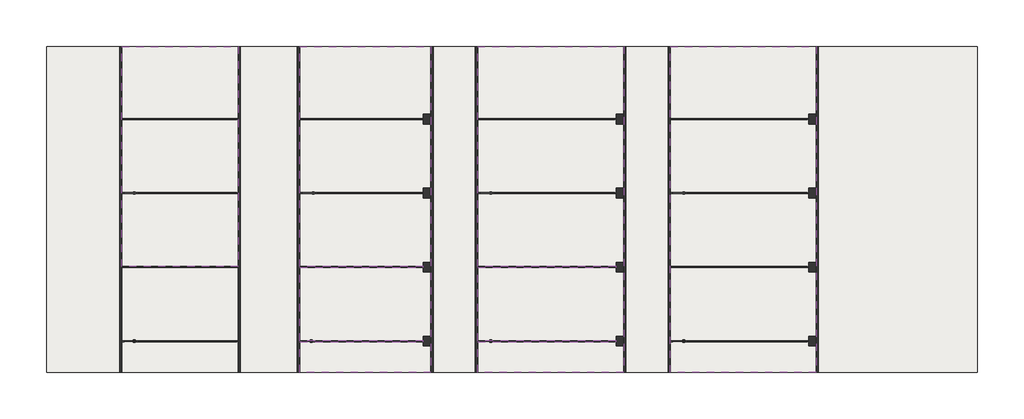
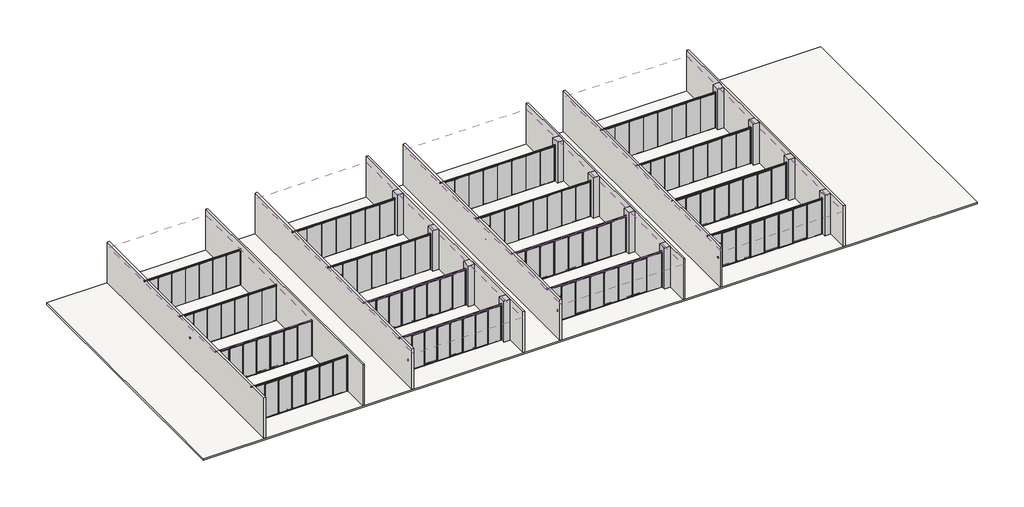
# One storey: 16 proxies, 12 columns, 8 walls, 4 coverings, 1 slab.
"""IFC4 building model written with IfcOpenShell, lengths in millimetres."""

from ifc_helpers import new_model, si_unit, frame, origin, place, context, project, spatial, polyline, outline, extrude, faceted_brep, transform, mapped, element, save
from components import type_a_e4121470, type_a_331d0887, type_a_3dc682f6, type_a_b0c5d881, type_a_b381bf6a, type_a_feeafe0a, type_b_6e2a2145, type_b_5b592769, type_b_17a27512, type_b_3c586b7c, type_b_248656a5, type_b_39922017, type_c_bcd6d19d, type_c_f462f6c3, type_c_2b327253, type_c_fbdfbec6, type_c_87207ea0, type_c_7cec8b19

model = new_model("IFC4")

# Units and contexts
model_context = context("Model", 3, world=origin())
ifc_project = project(units=[si_unit("LENGTHUNIT", "METRE", prefix="MILLI")], contexts=[model_context])

# Site, building, storey
site = spatial("IfcSite", under=ifc_project)
building = spatial("IfcBuilding", under=site)
storey = spatial("IfcBuildingStorey", under=building, Name="レベル 1", Elevation=500.0)

# Proxies
placement = place(None, origin())
type_a_shape = type_a_e4121470(model_context)
type_a_2_shape = type_a_331d0887(model_context)
element("IfcBuildingElementProxy", 1, Name="Planner Wall_ダブルガラス(Door) : Type_A", ObjectType="Planner Wall_ダブルガラス(Door) : Type_A", at=placement, inside=storey, context=model_context, shape_type="MappedRepresentation", body=[
    mapped(type_a_shape, transform((-14987.3449005, -7430.5617784, 500.0), x_axis=(1.0, 0.0, 0.0), y_axis=(0.0, 1.0, 0.0), z_axis=(0.0, 0.0, 1.0))),
    mapped(type_a_2_shape, transform((-14987.3449005, -7430.5617784, 500.0), x_axis=(1.0, 0.0, 0.0), y_axis=(0.0, 1.0, 0.0), z_axis=(0.0, 0.0, 1.0))),
])
type_a_3_shape = type_a_3dc682f6(model_context)
element("IfcBuildingElementProxy", 2, Name="Planner Wall_ダブルガラス(NO Door) : Type_A", ObjectType="Planner Wall_ダブルガラス(NO Door) : Type_A", at=placement, inside=storey, context=model_context, shape_type="MappedRepresentation", body=[
    mapped(type_a_3_shape, transform((-13242.3449005, -2430.5617784, 500.0), x_axis=(1.0, 0.0, 0.0), y_axis=(0.0, 1.0, 0.0), z_axis=(0.0, 0.0, 1.0))),
])
type_a_4_shape = type_a_b0c5d881(model_context)
type_a_5_shape = type_a_b381bf6a(model_context)
element("IfcBuildingElementProxy", 3, Name="Planner Wall フラッシュパネル(Door) : Type_A", ObjectType="Planner Wall フラッシュパネル(Door) : Type_A", at=placement, inside=storey, context=model_context, shape_type="MappedRepresentation", body=[
    mapped(type_a_4_shape, transform((-14987.3449005, 2569.4382216, 500.0), x_axis=(1.0, 0.0, 0.0), y_axis=(0.0, 1.0, 0.0), z_axis=(0.0, 0.0, 1.0))),
    mapped(type_a_5_shape, transform((-14987.3449005, 2569.4382216, 500.0), x_axis=(1.0, 0.0, 0.0), y_axis=(0.0, 1.0, 0.0), z_axis=(0.0, 0.0, 1.0))),
])
type_a_6_shape = type_a_feeafe0a(model_context)
element("IfcBuildingElementProxy", 4, Name="Planner Wall フラッシュパネル(NO Door) : Type_A", ObjectType="Planner Wall フラッシュパネル(NO Door) : Type_A", at=placement, inside=storey, context=model_context, shape_type="MappedRepresentation", body=[
    mapped(type_a_6_shape, transform((-13242.3449005, 7569.4382216, 500.0), x_axis=(1.0, 0.0, 0.0), y_axis=(0.0, 1.0, 0.0), z_axis=(0.0, 0.0, 1.0))),
])
type_b_shape = type_b_6e2a2145(model_context)
element("IfcBuildingElementProxy", 5, Name="Planner Wall_ダブルガラス(NO Door) : Type_B", ObjectType="Planner Wall_ダブルガラス(NO Door) : Type_B", at=placement, inside=storey, context=model_context, shape_type="MappedRepresentation", body=[
    mapped(type_b_shape, transform((-742.3449005, -2430.5617784, 500.0), x_axis=(1.0, 0.0, 0.0), y_axis=(0.0, 1.0, 0.0), z_axis=(0.0, 0.0, 1.0))),
])
type_b_2_shape = type_b_5b592769(model_context)
type_b_3_shape = type_b_17a27512(model_context)
element("IfcBuildingElementProxy", 6, Name="Planner Wall_ダブルガラス(Door) : Type_B", ObjectType="Planner Wall_ダブルガラス(Door) : Type_B", at=placement, inside=storey, context=model_context, shape_type="MappedRepresentation", body=[
    mapped(type_b_2_shape, transform((-2987.3449005, -7430.5617784, 500.0), x_axis=(1.0, 0.0, 0.0), y_axis=(0.0, 1.0, 0.0), z_axis=(0.0, 0.0, 1.0))),
    mapped(type_b_3_shape, transform((-2987.3449005, -7430.5617784, 500.0), x_axis=(1.0, 0.0, 0.0), y_axis=(0.0, 1.0, 0.0), z_axis=(0.0, 0.0, 1.0))),
])
type_b_4_shape = type_b_3c586b7c(model_context)
type_b_5_shape = type_b_248656a5(model_context)
element("IfcBuildingElementProxy", 7, Name="Planner Wall フラッシュパネル(Door) : Type_B", ObjectType="Planner Wall フラッシュパネル(Door) : Type_B", at=placement, inside=storey, context=model_context, shape_type="MappedRepresentation", body=[
    mapped(type_b_4_shape, transform((-2987.3449005, 2569.4382216, 500.0), x_axis=(1.0, 0.0, 0.0), y_axis=(0.0, 1.0, 0.0), z_axis=(0.0, 0.0, 1.0))),
    mapped(type_b_5_shape, transform((-2987.3449005, 2569.4382216, 500.0), x_axis=(1.0, 0.0, 0.0), y_axis=(0.0, 1.0, 0.0), z_axis=(0.0, 0.0, 1.0))),
])
type_b_6_shape = type_b_39922017(model_context)
element("IfcBuildingElementProxy", 8, Name="Planner Wall フラッシュパネル(NO Door) : Type_B", ObjectType="Planner Wall フラッシュパネル(NO Door) : Type_B", at=placement, inside=storey, context=model_context, shape_type="MappedRepresentation", body=[
    mapped(type_b_6_shape, transform((-742.3449005, 7569.4382216, 500.0), x_axis=(1.0, 0.0, 0.0), y_axis=(0.0, 1.0, 0.0), z_axis=(0.0, 0.0, 1.0))),
])
type_c_shape = type_c_bcd6d19d(model_context)
element("IfcBuildingElementProxy", 9, Name="Planner Wall_ダブルガラス(NO Door) : Type_C", ObjectType="Planner Wall_ダブルガラス(NO Door) : Type_C", at=placement, inside=storey, context=model_context, shape_type="MappedRepresentation", body=[
    mapped(type_c_shape, transform((12257.6550995, -2430.5617784, 500.0), x_axis=(1.0, 0.0, 0.0), y_axis=(0.0, 1.0, 0.0), z_axis=(0.0, 0.0, 1.0))),
])
type_c_2_shape = type_c_f462f6c3(model_context)
type_c_3_shape = type_c_2b327253(model_context)
element("IfcBuildingElementProxy", 10, Name="Planner Wall_ダブルガラス(Door) : Type_C", ObjectType="Planner Wall_ダブルガラス(Door) : Type_C", at=placement, inside=storey, context=model_context, shape_type="MappedRepresentation", body=[
    mapped(type_c_2_shape, transform((9012.6550995, -7430.5617784, 500.0), x_axis=(1.0, 0.0, 0.0), y_axis=(0.0, 1.0, 0.0), z_axis=(0.0, 0.0, 1.0))),
    mapped(type_c_3_shape, transform((9012.6550995, -7430.5617784, 500.0), x_axis=(1.0, 0.0, 0.0), y_axis=(0.0, 1.0, 0.0), z_axis=(0.0, 0.0, 1.0))),
])
type_c_4_shape = type_c_fbdfbec6(model_context)
type_c_5_shape = type_c_87207ea0(model_context)
element("IfcBuildingElementProxy", 11, Name="Planner Wall フラッシュパネル(Door) : Type_C", ObjectType="Planner Wall フラッシュパネル(Door) : Type_C", at=placement, inside=storey, context=model_context, shape_type="MappedRepresentation", body=[
    mapped(type_c_4_shape, transform((9012.6550995, 2569.4382216, 500.0), x_axis=(1.0, 0.0, 0.0), y_axis=(0.0, 1.0, 0.0), z_axis=(0.0, 0.0, 1.0))),
    mapped(type_c_5_shape, transform((9012.6550995, 2569.4382216, 500.0), x_axis=(1.0, 0.0, 0.0), y_axis=(0.0, 1.0, 0.0), z_axis=(0.0, 0.0, 1.0))),
])
type_c_6_shape = type_c_7cec8b19(model_context)
element("IfcBuildingElementProxy", 12, Name="Planner Wall フラッシュパネル(NO Door) : Type_C", ObjectType="Planner Wall フラッシュパネル(NO Door) : Type_C", at=placement, inside=storey, context=model_context, shape_type="MappedRepresentation", body=[
    mapped(type_c_6_shape, transform((12257.6550995, 7569.4382216, 500.0), x_axis=(1.0, 0.0, 0.0), y_axis=(0.0, 1.0, 0.0), z_axis=(0.0, 0.0, 1.0))),
])
element("IfcBuildingElementProxy", 13, Name="Planner Wall_ダブルガラス(NO Door) : Type_D", ObjectType="Planner Wall_ダブルガラス(NO Door) : Type_D", at=placement, inside=storey, context=model_context, shape_type="MappedRepresentation", body=[
    mapped(type_c_shape, transform((25257.6550995, -2430.5617784, 500.0), x_axis=(1.0, 0.0, 0.0), y_axis=(0.0, 1.0, 0.0), z_axis=(0.0, 0.0, 1.0))),
])
element("IfcBuildingElementProxy", 14, Name="Planner Wall_ダブルガラス(Door) : Type_D", ObjectType="Planner Wall_ダブルガラス(Door) : Type_D", at=placement, inside=storey, context=model_context, shape_type="MappedRepresentation", body=[
    mapped(type_c_2_shape, transform((22012.6550995, -7430.5617784, 500.0), x_axis=(1.0, 0.0, 0.0), y_axis=(0.0, 1.0, 0.0), z_axis=(0.0, 0.0, 1.0))),
    mapped(type_c_3_shape, transform((22012.6550995, -7430.5617784, 500.0), x_axis=(1.0, 0.0, 0.0), y_axis=(0.0, 1.0, 0.0), z_axis=(0.0, 0.0, 1.0))),
])
element("IfcBuildingElementProxy", 15, Name="Planner Wall フラッシュパネル(Door) : Type_D", ObjectType="Planner Wall フラッシュパネル(Door) : Type_D", at=placement, inside=storey, context=model_context, shape_type="MappedRepresentation", body=[
    mapped(type_c_4_shape, transform((22012.6550995, 2569.4382216, 500.0), x_axis=(1.0, 0.0, 0.0), y_axis=(0.0, 1.0, 0.0), z_axis=(0.0, 0.0, 1.0))),
    mapped(type_c_5_shape, transform((22012.6550995, 2569.4382216, 500.0), x_axis=(1.0, 0.0, 0.0), y_axis=(0.0, 1.0, 0.0), z_axis=(0.0, 0.0, 1.0))),
])
element("IfcBuildingElementProxy", 16, Name="Planner Wall フラッシュパネル(NO Door) : Type_D", ObjectType="Planner Wall フラッシュパネル(NO Door) : Type_D", at=placement, inside=storey, context=model_context, shape_type="MappedRepresentation", body=[
    mapped(type_c_6_shape, transform((25257.6550995, 7569.4382216, 500.0), x_axis=(1.0, 0.0, 0.0), y_axis=(0.0, 1.0, 0.0), z_axis=(0.0, 0.0, 1.0))),
])

# Columns
element("IfcColumn", 17, ObjectType="角柱 : 650 x 650mm", at=placement, inside=storey, context=model_context, shape_type="SweptSolid", body=[
    extrude(outline(polyline([(5362.6550995, -2755.5617784), (5362.6550995, -2105.5617784), (5862.6550995, -2105.5617784), (5862.6550995, -2755.5617784), (5362.6550995, -2755.5617784)])), frame((0.0, 0.0, 500.0), z_axis=(0.0, 0.0, 1.0), x_axis=(1.0, 0.0, 0.0)), (0.0, 0.0, 1.0), 3500.0),
])
element("IfcColumn", 18, ObjectType="角柱 : 650 x 650mm", at=placement, inside=storey, context=model_context, shape_type="SweptSolid", body=[
    extrude(outline(polyline([(5362.6550995, -7755.5617784), (5362.6550995, -7105.5617784), (5862.6550995, -7105.5617784), (5862.6550995, -7755.5617784), (5362.6550995, -7755.5617784)])), frame((0.0, 0.0, 500.0), z_axis=(0.0, 0.0, 1.0), x_axis=(1.0, 0.0, 0.0)), (0.0, 0.0, 1.0), 3500.0),
])
element("IfcColumn", 19, ObjectType="角柱 : 650 x 650mm", at=placement, inside=storey, context=model_context, shape_type="SweptSolid", body=[
    extrude(outline(polyline([(18362.6550995, -2755.5617784), (18362.6550995, -2105.5617784), (18862.6550995, -2105.5617784), (18862.6550995, -2755.5617784), (18362.6550995, -2755.5617784)])), frame((0.0, 0.0, 500.0), z_axis=(0.0, 0.0, 1.0), x_axis=(1.0, 0.0, 0.0)), (0.0, 0.0, 1.0), 3500.0),
])
element("IfcColumn", 20, ObjectType="角柱 : 650 x 650mm", at=placement, inside=storey, context=model_context, shape_type="SweptSolid", body=[
    extrude(outline(polyline([(18362.6550995, -7755.5617784), (18362.6550995, -7105.5617784), (18862.6550995, -7105.5617784), (18862.6550995, -7755.5617784), (18362.6550995, -7755.5617784)])), frame((0.0, 0.0, 500.0), z_axis=(0.0, 0.0, 1.0), x_axis=(1.0, 0.0, 0.0)), (0.0, 0.0, 1.0), 3500.0),
])
element("IfcColumn", 21, ObjectType="角柱 : 650 x 650mm", at=placement, inside=storey, context=model_context, shape_type="SweptSolid", body=[
    extrude(outline(polyline([(31362.6550995, -2755.5617784), (31362.6550995, -2105.5617784), (31862.6550995, -2105.5617784), (31862.6550995, -2755.5617784), (31362.6550995, -2755.5617784)])), frame((0.0, 0.0, 500.0), z_axis=(0.0, 0.0, 1.0), x_axis=(1.0, 0.0, 0.0)), (0.0, 0.0, 1.0), 3500.0),
])
element("IfcColumn", 22, ObjectType="角柱 : 650 x 650mm", at=placement, inside=storey, context=model_context, shape_type="SweptSolid", body=[
    extrude(outline(polyline([(31362.6550995, -7755.5617784), (31362.6550995, -7105.5617784), (31862.6550995, -7105.5617784), (31862.6550995, -7755.5617784), (31362.6550995, -7755.5617784)])), frame((0.0, 0.0, 500.0), z_axis=(0.0, 0.0, 1.0), x_axis=(1.0, 0.0, 0.0)), (0.0, 0.0, 1.0), 3500.0),
])
element("IfcColumn", 23, ObjectType="角柱 : 650 x 650mm", at=placement, inside=storey, context=model_context, shape_type="SweptSolid", body=[
    extrude(outline(polyline([(5362.6550995, 7244.4382216), (5362.6550995, 7894.4382216), (5862.6550995, 7894.4382216), (5862.6550995, 7244.4382216), (5362.6550995, 7244.4382216)])), frame((0.0, 0.0, 500.0), z_axis=(0.0, 0.0, 1.0), x_axis=(1.0, 0.0, 0.0)), (0.0, 0.0, 1.0), 3500.0),
])
element("IfcColumn", 24, ObjectType="角柱 : 650 x 650mm", at=placement, inside=storey, context=model_context, shape_type="SweptSolid", body=[
    extrude(outline(polyline([(5362.6550995, 2244.4382216), (5362.6550995, 2894.4382216), (5862.6550995, 2894.4382216), (5862.6550995, 2244.4382216), (5362.6550995, 2244.4382216)])), frame((0.0, 0.0, 500.0), z_axis=(0.0, 0.0, 1.0), x_axis=(1.0, 0.0, 0.0)), (0.0, 0.0, 1.0), 3500.0),
])
element("IfcColumn", 25, ObjectType="角柱 : 650 x 650mm", at=placement, inside=storey, context=model_context, shape_type="SweptSolid", body=[
    extrude(outline(polyline([(18362.6550995, 7244.4382216), (18362.6550995, 7894.4382216), (18862.6550995, 7894.4382216), (18862.6550995, 7244.4382216), (18362.6550995, 7244.4382216)])), frame((0.0, 0.0, 500.0), z_axis=(0.0, 0.0, 1.0), x_axis=(1.0, 0.0, 0.0)), (0.0, 0.0, 1.0), 3500.0),
])
element("IfcColumn", 26, ObjectType="角柱 : 650 x 650mm", at=placement, inside=storey, context=model_context, shape_type="SweptSolid", body=[
    extrude(outline(polyline([(18362.6550995, 2244.4382216), (18362.6550995, 2894.4382216), (18862.6550995, 2894.4382216), (18862.6550995, 2244.4382216), (18362.6550995, 2244.4382216)])), frame((0.0, 0.0, 500.0), z_axis=(0.0, 0.0, 1.0), x_axis=(1.0, 0.0, 0.0)), (0.0, 0.0, 1.0), 3500.0),
])
element("IfcColumn", 27, ObjectType="角柱 : 650 x 650mm", at=placement, inside=storey, context=model_context, shape_type="SweptSolid", body=[
    extrude(outline(polyline([(31362.6550995, 7244.4382216), (31362.6550995, 7894.4382216), (31862.6550995, 7894.4382216), (31862.6550995, 7244.4382216), (31362.6550995, 7244.4382216)])), frame((0.0, 0.0, 500.0), z_axis=(0.0, 0.0, 1.0), x_axis=(1.0, 0.0, 0.0)), (0.0, 0.0, 1.0), 3500.0),
])
element("IfcColumn", 28, ObjectType="角柱 : 650 x 650mm", at=placement, inside=storey, context=model_context, shape_type="SweptSolid", body=[
    extrude(outline(polyline([(31362.6550995, 2244.4382216), (31362.6550995, 2894.4382216), (31862.6550995, 2894.4382216), (31862.6550995, 2244.4382216), (31362.6550995, 2244.4382216)])), frame((0.0, 0.0, 500.0), z_axis=(0.0, 0.0, 1.0), x_axis=(1.0, 0.0, 0.0)), (0.0, 0.0, 1.0), 3500.0),
])

# Coverings
element("IfcCovering", 29, ObjectType="グリッド 600x600mm", at=placement, inside=storey, context=model_context, shape_type="SweptSolid", body=[
    extrude(outline(polyline([(-14987.3449005, 12469.4382216), (-7137.3449005, 12469.4382216), (-7137.3449005, -2395.5617784), (-14987.3449005, -2395.5617784), (-14987.3449005, 12469.4382216)])), frame((0.0, 0.0, 3500.0), z_axis=(0.0, 0.0, 1.0), x_axis=(1.0, 0.0, 0.0)), (0.0, 0.0, 1.0), 52.0),
    extrude(outline(polyline([(-7137.3449005, -9530.5617784), (-14987.3449005, -9530.5617784), (-14987.3449005, -7465.5617784), (-7137.3449005, -7465.5617784), (-7137.3449005, -9530.5617784)])), frame((0.0, 0.0, 3500.0), z_axis=(0.0, 0.0, 1.0), x_axis=(1.0, 0.0, 0.0)), (0.0, 0.0, 1.0), 52.0),
    extrude(outline(polyline([(-7137.3449005, -7395.5617784), (-14987.3449005, -7395.5617784), (-14987.3449005, -2465.5617784), (-7137.3449005, -2465.5617784), (-7137.3449005, -7395.5617784)])), frame((0.0, 0.0, 3500.0), z_axis=(0.0, 0.0, 1.0), x_axis=(1.0, 0.0, 0.0)), (0.0, 0.0, 1.0), 52.0),
])
element("IfcCovering", 30, ObjectType="グリッド 600x600mm", at=placement, inside=storey, context=model_context, shape_type="SweptSolid", body=[
    extrude(outline(polyline([(5862.6550995, 12469.4382216), (5862.6550995, -9530.5617784), (-2987.3449005, -9530.5617784), (-2987.3449005, -7465.5617784), (5362.6550995, -7465.5617784), (5362.6550995, -7395.5617784), (-2987.3449005, -7395.5617784), (-2987.3449005, -2465.5617784), (5362.6550995, -2465.5617784), (5362.6550995, -2395.5617784), (-2987.3449005, -2395.5617784), (-2987.3449005, 12469.4382216), (5862.6550995, 12469.4382216)])), frame((0.0, 0.0, 3500.0), z_axis=(0.0, 0.0, 1.0), x_axis=(1.0, 0.0, 0.0)), (0.0, 0.0, 1.0), 52.0),
])
element("IfcCovering", 31, ObjectType="グリッド 600x600mm", at=placement, inside=storey, context=model_context, shape_type="SweptSolid", body=[
    extrude(outline(polyline([(18862.6550995, 12469.4382216), (18862.6550995, -9530.5617784), (9012.6550995, -9530.5617784), (9012.6550995, -7465.5617784), (18362.6550995, -7465.5617784), (18362.6550995, -7395.5617784), (9012.6550995, -7395.5617784), (9012.6550995, -2465.5617784), (18362.6550995, -2465.5617784), (18362.6550995, -2395.5617784), (9012.6550995, -2395.5617784), (9012.6550995, 12469.4382216), (18862.6550995, 12469.4382216)])), frame((0.0, 0.0, 3500.0), z_axis=(0.0, 0.0, 1.0), x_axis=(1.0, 0.0, 0.0)), (0.0, 0.0, 1.0), 52.0),
])
element("IfcCovering", 32, ObjectType="グリッド 600x600mm", at=placement, inside=storey, context=model_context, shape_type="SweptSolid", body=[
    extrude(outline(polyline([(31862.6550995, 12469.4382216), (31862.6550995, -9530.5617784), (22012.6550995, -9530.5617784), (22012.6550995, 12469.4382216), (31862.6550995, 12469.4382216)])), frame((0.0, 0.0, 3500.0), z_axis=(0.0, 0.0, 1.0), x_axis=(1.0, 0.0, 0.0)), (0.0, 0.0, 1.0), 52.0),
])

# Slab
element("IfcSlab", 33, ObjectType="一般 150 mm", at=placement, inside=storey, context=model_context, shape_type="SweptSolid", body=[
    extrude(outline(polyline([(42737.6550995, 12469.4382216), (42737.6550995, -9530.5617784), (-20062.3449005, -9530.5617784), (-20062.3449005, 12469.4382216), (42737.6550995, 12469.4382216)])), frame((0.0, 0.0, 350.0), z_axis=(0.0, 0.0, 1.0), x_axis=(1.0, 0.0, 0.0)), (0.0, 0.0, 1.0), 150.0),
])

# Walls
element("IfcWall", 34, ObjectType="標準-150mm", at=placement, inside=storey, context=model_context, shape_type="SweptSolid", body=[
    extrude(outline(polyline([(-14987.3449005, 12469.4382216), (-14987.3449005, -9530.5617784), (-15137.3449005, -9530.5617784), (-15137.3449005, 12469.4382216), (-14987.3449005, 12469.4382216)])), frame((0.0, 0.0, 500.0), z_axis=(0.0, 0.0, 1.0), x_axis=(1.0, 0.0, 0.0)), (0.0, 0.0, 1.0), 3500.0),
])
element("IfcWall", 35, ObjectType="標準-150mm", at=placement, inside=storey, context=model_context, shape_type="SweptSolid", body=[
    extrude(outline(polyline([(-7137.3449005, -9530.5617784), (-7137.3449005, 12469.4382216), (-6987.3449005, 12469.4382216), (-6987.3449005, -9530.5617784), (-7137.3449005, -9530.5617784)])), frame((0.0, 0.0, 500.0), z_axis=(0.0, 0.0, 1.0), x_axis=(1.0, 0.0, 0.0)), (0.0, 0.0, 1.0), 3500.0),
])
element("IfcWall", 36, ObjectType="標準-150mm", at=placement, inside=storey, context=model_context, shape_type="SweptSolid", body=[
    extrude(outline(polyline([(-2987.3449005, 12469.4382216), (-2987.3449005, -9530.5617784), (-3137.3449005, -9530.5617784), (-3137.3449005, 12469.4382216), (-2987.3449005, 12469.4382216)])), frame((0.0, 0.0, 500.0), z_axis=(0.0, 0.0, 1.0), x_axis=(1.0, 0.0, 0.0)), (0.0, 0.0, 1.0), 3500.0),
])
element("IfcWall", 37, ObjectType="標準-150mm", at=placement, inside=storey, context=model_context, shape_type="Brep", body=[
    faceted_brep([(6012.6550995, -9530.5617784, 500.0), (6012.6550995, 12469.4382216, 500.0), (6012.6550995, 12469.4382216, 4000.0), (6012.6550995, -9530.5617784, 4000.0), (5862.6550995, -9530.5617784, 500.0), (5862.6550995, -9530.5617784, 4000.0), (5862.6550995, -7755.5617784, 4000.0), (5862.6550995, -7105.5617784, 4000.0), (5862.6550995, -2755.5617784, 4000.0), (5862.6550995, -2105.5617784, 4000.0), (5862.6550995, 2244.4382216, 4000.0), (5862.6550995, 2894.4382216, 4000.0), (5862.6550995, 7244.4382216, 4000.0), (5862.6550995, 7894.4382216, 4000.0), (5862.6550995, 12469.4382216, 4000.0), (5862.6550995, 12469.4382216, 500.0), (5862.6550995, 7894.4382216, 500.0), (5862.6550995, 7244.4382216, 500.0), (5862.6550995, 2894.4382216, 500.0), (5862.6550995, 2244.4382216, 500.0), (5862.6550995, -2105.5617784, 500.0), (5862.6550995, -2755.5617784, 500.0), (5862.6550995, -7105.5617784, 500.0), (5862.6550995, -7755.5617784, 500.0)], [[[0, 1, 2, 3]], [[4, 5, 6, 7, 8, 9, 10, 11, 12, 13, 14, 15, 16, 17, 18, 19, 20, 21, 22, 23]], [[1, 0, 4, 23, 22, 21, 20, 19, 18, 17, 16, 15]], [[2, 1, 15, 14]], [[3, 2, 14, 13, 12, 11, 10, 9, 8, 7, 6, 5]], [[0, 3, 5, 4]]]),
])
element("IfcWall", 38, ObjectType="標準-150mm", at=placement, inside=storey, context=model_context, shape_type="SweptSolid", body=[
    extrude(outline(polyline([(9012.6550995, 12469.4382216), (9012.6550995, -9530.5617784), (8862.6550995, -9530.5617784), (8862.6550995, 12469.4382216), (9012.6550995, 12469.4382216)])), frame((0.0, 0.0, 500.0), z_axis=(0.0, 0.0, 1.0), x_axis=(1.0, 0.0, 0.0)), (0.0, 0.0, 1.0), 3500.0),
])
element("IfcWall", 39, ObjectType="標準-150mm", at=placement, inside=storey, context=model_context, shape_type="Brep", body=[
    faceted_brep([(19012.6550995, -9530.5617784, 500.0), (19012.6550995, 12469.4382216, 500.0), (19012.6550995, 12469.4382216, 4000.0), (19012.6550995, -9530.5617784, 4000.0), (18862.6550995, -9530.5617784, 500.0), (18862.6550995, -9530.5617784, 4000.0), (18862.6550995, -7755.5617784, 4000.0), (18862.6550995, -7105.5617784, 4000.0), (18862.6550995, -2755.5617784, 4000.0), (18862.6550995, -2105.5617784, 4000.0), (18862.6550995, 2244.4382216, 4000.0), (18862.6550995, 2894.4382216, 4000.0), (18862.6550995, 7244.4382216, 4000.0), (18862.6550995, 7894.4382216, 4000.0), (18862.6550995, 12469.4382216, 4000.0), (18862.6550995, 12469.4382216, 500.0), (18862.6550995, 7894.4382216, 500.0), (18862.6550995, 7244.4382216, 500.0), (18862.6550995, 2894.4382216, 500.0), (18862.6550995, 2244.4382216, 500.0), (18862.6550995, -2105.5617784, 500.0), (18862.6550995, -2755.5617784, 500.0), (18862.6550995, -7105.5617784, 500.0), (18862.6550995, -7755.5617784, 500.0)], [[[0, 1, 2, 3]], [[4, 5, 6, 7, 8, 9, 10, 11, 12, 13, 14, 15, 16, 17, 18, 19, 20, 21, 22, 23]], [[1, 0, 4, 23, 22, 21, 20, 19, 18, 17, 16, 15]], [[2, 1, 15, 14]], [[3, 2, 14, 13, 12, 11, 10, 9, 8, 7, 6, 5]], [[0, 3, 5, 4]]]),
])
element("IfcWall", 40, ObjectType="標準-150mm", at=placement, inside=storey, context=model_context, shape_type="SweptSolid", body=[
    extrude(outline(polyline([(22012.6550995, 12469.4382216), (22012.6550995, -9530.5617784), (21862.6550995, -9530.5617784), (21862.6550995, 12469.4382216), (22012.6550995, 12469.4382216)])), frame((0.0, 0.0, 500.0), z_axis=(0.0, 0.0, 1.0), x_axis=(1.0, 0.0, 0.0)), (0.0, 0.0, 1.0), 3500.0),
])
element("IfcWall", 41, ObjectType="標準-150mm", at=placement, inside=storey, context=model_context, shape_type="Brep", body=[
    faceted_brep([(32012.6550995, -9530.5617784, 500.0), (32012.6550995, 12469.4382216, 500.0), (32012.6550995, 12469.4382216, 4000.0), (32012.6550995, -9530.5617784, 4000.0), (31862.6550995, -9530.5617784, 500.0), (31862.6550995, -9530.5617784, 4000.0), (31862.6550995, -7755.5617784, 4000.0), (31862.6550995, -7105.5617784, 4000.0), (31862.6550995, -2755.5617784, 4000.0), (31862.6550995, -2105.5617784, 4000.0), (31862.6550995, 2244.4382216, 4000.0), (31862.6550995, 2894.4382216, 4000.0), (31862.6550995, 7244.4382216, 4000.0), (31862.6550995, 7894.4382216, 4000.0), (31862.6550995, 12469.4382216, 4000.0), (31862.6550995, 12469.4382216, 500.0), (31862.6550995, 7894.4382216, 500.0), (31862.6550995, 7244.4382216, 500.0), (31862.6550995, 2894.4382216, 500.0), (31862.6550995, 2244.4382216, 500.0), (31862.6550995, -2105.5617784, 500.0), (31862.6550995, -2755.5617784, 500.0), (31862.6550995, -7105.5617784, 500.0), (31862.6550995, -7755.5617784, 500.0)], [[[0, 1, 2, 3]], [[4, 5, 6, 7, 8, 9, 10, 11, 12, 13, 14, 15, 16, 17, 18, 19, 20, 21, 22, 23]], [[1, 0, 4, 23, 22, 21, 20, 19, 18, 17, 16, 15]], [[2, 1, 15, 14]], [[3, 2, 14, 13, 12, 11, 10, 9, 8, 7, 6, 5]], [[0, 3, 5, 4]]]),
])

save(model, "model.ifc")
